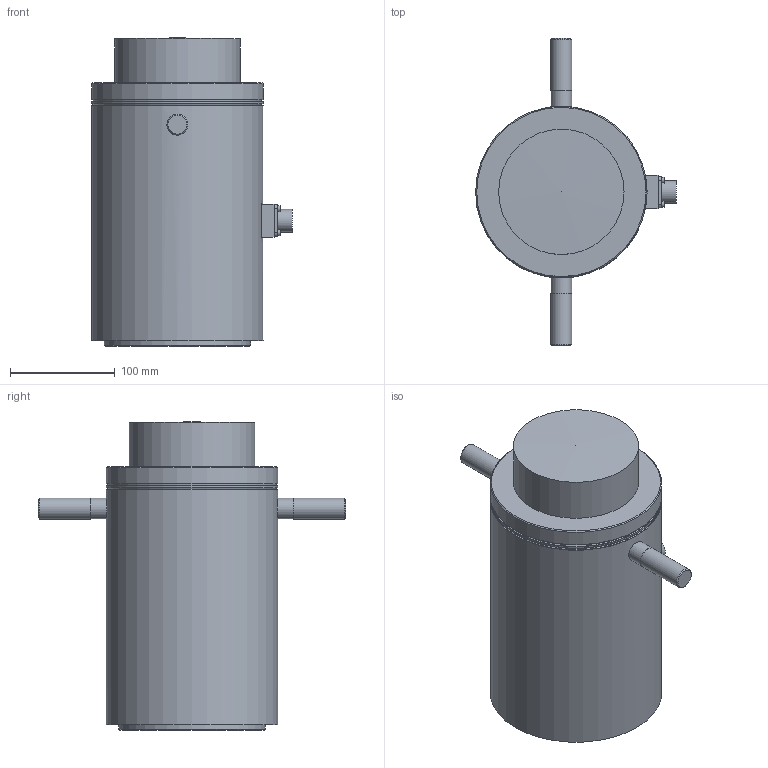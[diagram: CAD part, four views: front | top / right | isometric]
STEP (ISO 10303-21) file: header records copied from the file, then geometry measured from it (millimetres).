
FILE_DESCRIPTION(/* description */ ('Unknown'),/* implementation_level */ '2;1');
FILE_NAME(/* name */ 'C2XK-T300 SPEC',/* time_stamp */ '2021-05-11T15:11:40+09:00',/* author */ ('Unknown'),/* organization */ ('Unknown'),/* preprocessor_version */ 'ST-DEVELOPER v16.7',/* originating_system */ 'DEX',/* authorisation */ $);
FILE_SCHEMA (('AUTOMOTIVE_DESIGN {1 0 10303 214 3 1 1}'));
Length unit declared in the file: millimetre
Products named in the file (1): C2XK-T300 SPEC
Bounding box: 192 x 294 x 295 mm (x, y, z)
Volume: 5832061.7 mm3; surface area: 201332.1 mm2
Topology: 1 solids, 1 shells, 96 faces, 213 edges, 141 vertices
Faces by surface type: plane 62, cylinder 21, cone 10, torus 2, sphere 1
Full cylindrical faces by diameter (mm): 5.5 x4, 10 x1, 19.8 x2, 20 x4, 21.8 x1, 120 x1, 140 x1, 164 x3
Entity records: 3106 total; most frequent: CARTESIAN_POINT 430, DIRECTION 416, ORIENTED_EDGE 338, EDGE_CURVE 169, AXIS2_PLACEMENT_3D 152, FACE_BOUND 149, EDGE_LOOP 148, VERTEX_POINT 128
